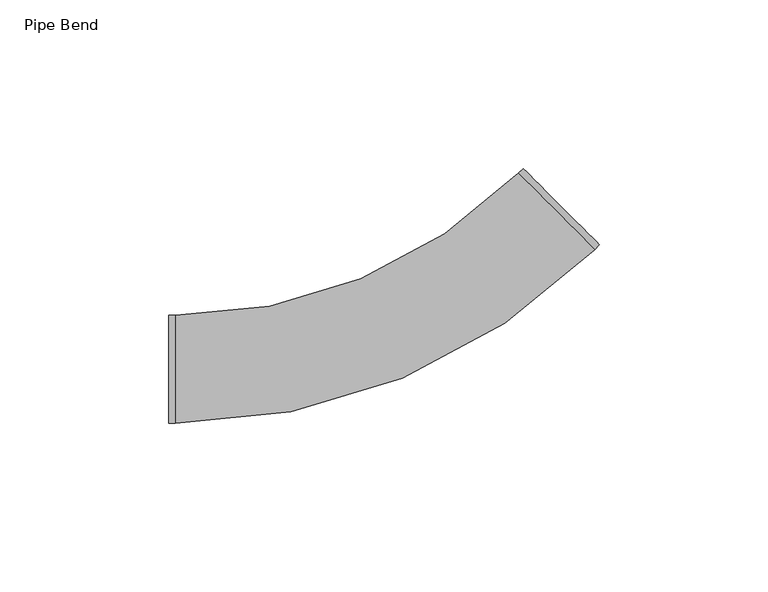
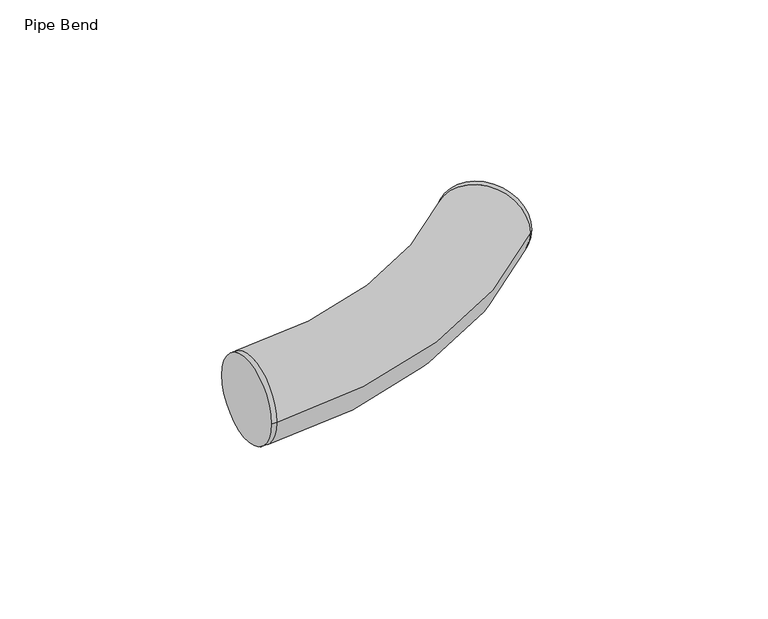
"""IFC4 building model written with IfcOpenShell, lengths in millimetres: pipe fitting geometry, Pipe Bend : Superpipe 2-MAX Pipe bend."""

from ifc_helpers import new_model, si_unit, point, frame, origin, place, context, project, spatial, circle_curve, ellipse_curve, trimmed, source, transform, mapped, element, save
from ifc_brep_helpers import plane_surface, cylinder_surface, revolved_surface, advanced_brep


def pipe_bend_7dc21ba6(model_context):
    return source(origin(), model_context, "Body", "AdvancedBrep", [
        advanced_brep(
        [(-68.27417, -16.0, 0.0), (-68.27417, 16.0, 0.0), (-66.27417, -16.0, 0.0), (-66.27417, 16.0, 0.0), (35.5492065, 58.1766235, 0.0), (58.1766235, 35.5492065, 0.0), (46.862915, 46.862915, 16.0), (46.862915, 46.862915, -16.0), (59.5908371, 36.9634201, 0.0), (36.9634201, 59.5908371, 0.0)],
        [
            (0, 1, circle_curve(frame((-68.27417, 0.0, 0.0), z_axis=(-1.0, 0.0, 0.0), x_axis=(0.0, 1.0, 0.0)), 16.0)),
            (1, 0, circle_curve(frame((-68.27417, 0.0, 0.0), z_axis=(-1.0, 0.0, 0.0), x_axis=(0.0, 1.0, 0.0)), 16.0)),
            (0, 2),
            (2, 3, circle_curve(frame((-66.27417, 0.0, 0.0), z_axis=(-1.0, 0.0, 0.0), x_axis=(0.0, 1.0, 0.0)), 16.0)),
            (3, 1),
            (3, 2, circle_curve(frame((-66.27417, 0.0, 0.0), z_axis=(-1.0, 0.0, 0.0), x_axis=(0.0, 1.0, 0.0)), 16.0)),
            (4, 3, circle_curve(frame((-66.27417, 160.0, 0.0), z_axis=(0.0, 0.0, -1.0), x_axis=(0.0, -1.0000000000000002, 0.0)), 144.0)),
            (2, 5, circle_curve(frame((-66.27417, 160.0, 0.0), z_axis=(0.0, 0.0, 1.0), x_axis=(0.0, -1.0000000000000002, 0.0)), 176.0)),
            (5, 6, circle_curve(frame((46.862915, 46.862915, 0.0), z_axis=(-0.7071067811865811, -0.7071067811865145, 0.0), x_axis=(-0.7071067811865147, 0.7071067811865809, 0.0)), 16.0)),
            (6, 4, circle_curve(frame((46.862915, 46.862915, 0.0), z_axis=(-0.7071067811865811, -0.7071067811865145, 0.0), x_axis=(-0.7071067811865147, 0.7071067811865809, 0.0)), 16.0)),
            (4, 7, circle_curve(frame((46.862915, 46.862915, 0.0), z_axis=(-0.7071067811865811, -0.7071067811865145, 0.0), x_axis=(-0.7071067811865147, 0.7071067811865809, 0.0)), 16.0)),
            (7, 5, circle_curve(frame((46.862915, 46.862915, 0.0), z_axis=(-0.7071067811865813, -0.7071067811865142, 0.0), x_axis=(-0.7071067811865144, 0.7071067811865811, 0.0)), 16.0)),
            (8, 9, circle_curve(frame((48.2771286, 48.2771286, 0.0), z_axis=(0.7071067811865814, 0.7071067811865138, 0.0), x_axis=(-0.7071067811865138, 0.7071067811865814, 0.0)), 16.0)),
            (9, 8, circle_curve(frame((48.2771286, 48.2771286, 0.0), z_axis=(0.7071067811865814, 0.7071067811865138, 0.0), x_axis=(-0.7071067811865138, 0.7071067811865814, 0.0)), 16.0)),
            (9, 4),
            (5, 8),
        ],
        [
            plane_surface(frame((-68.27417, 0.0, 0.0), z_axis=(-1.0, 0.0, 0.0), x_axis=(0.0, 0.0, 1.0))),
            cylinder_surface(frame((-68.27417, 0.0, 0.0), z_axis=(-1.0, 0.0, 0.0), x_axis=(0.0, 1.0, 0.0)), 16.0),
            revolved_surface(trimmed(ellipse_curve(frame((-66.27417, 0.0, 0.0), z_axis=(-1.0000000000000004, 0.0, 0.0), x_axis=(0.0, 1.0000000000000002, 0.0)), 16.0, 16.0), [point((-66.27417, -16.0, 0.0))], [point((-66.27417, 16.0, 0.0))], True, "CARTESIAN"), (-66.27417, 160.0, 0.0), (0.0, 0.0, 1.0000000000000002)),
            revolved_surface(trimmed(ellipse_curve(frame((-66.27417, 0.0, 0.0), z_axis=(-1.0000000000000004, 0.0, 0.0), x_axis=(0.0, 1.0000000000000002, 0.0)), 16.0, 16.0), [point((-66.27417, 16.0, 0.0))], [point((-66.27417, -16.0, 0.0))], True, "CARTESIAN"), (-66.27417, 160.0, 0.0), (0.0, 0.0, 1.0000000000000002)),
            plane_surface(frame((48.2771286, 48.2771286, 0.0), z_axis=(0.7071067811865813, 0.7071067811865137, 0.0), x_axis=(0.0, 0.0, 1.0))),
            cylinder_surface(frame((46.862915, 46.862915, 0.0), z_axis=(-0.7071067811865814, -0.7071067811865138, 0.0), x_axis=(-0.7071067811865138, 0.7071067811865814, 0.0)), 16.0),
        ],
        [
            (0, [[1, 2]]),
            (1, [[-1, 3, 4, 5]]),
            (1, [[-2, -5, 6, -3]]),
            (2, [[7, -4, 8, 9, 10]]),
            (3, [[-7, 11, 12, -8, -6]]),
            (4, [[13, 14]]),
            (5, [[-14, 15, -10, -9, 16]]),
            (5, [[-13, -16, -12, -11, -15]]),
        ],
    ),
    ])


if __name__ == "__main__":
    model = new_model("IFC4")
    model_context = context("Model", 3, world=origin())
    ifc_project = project(units=[si_unit("LENGTHUNIT", "METRE", prefix="MILLI")], contexts=[model_context])
    site = spatial("IfcSite", under=ifc_project)
    building = spatial("IfcBuilding", under=site)
    placement = place(None, origin())
    pipe_bend_shape = pipe_bend_7dc21ba6(model_context)
    element("IfcPipeFitting", 1, ObjectType="Pipe Bend : Superpipe 2-MAX Pipe bend", at=placement, inside=building, context=model_context, shape_type="MappedRepresentation", body=[
        mapped(pipe_bend_shape, transform((0.0, 0.0, 0.0), x_axis=(1.0, 0.0, 0.0), y_axis=(0.0, 1.0, 0.0), z_axis=(0.0, 0.0, 1.0))),
    ])
    save(model, "model.ifc")
